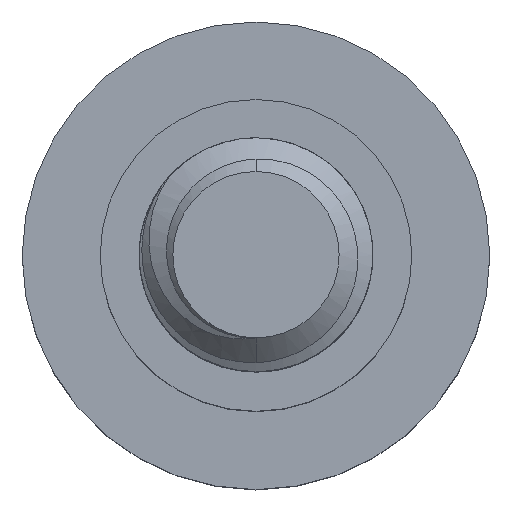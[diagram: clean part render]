
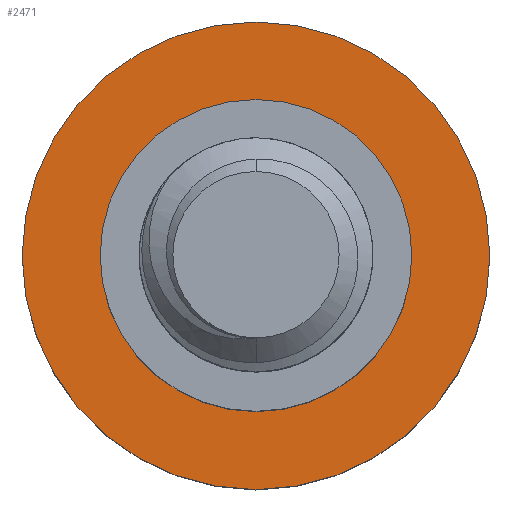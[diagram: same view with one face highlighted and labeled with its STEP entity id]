
A CAD part, top view. The second image highlights one B-rep face of the part: STEP entity #2471.
In plain terms, the highlighted planar face has unit normal (0, 0, 1).
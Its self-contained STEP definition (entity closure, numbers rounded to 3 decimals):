
#40 = FACE_OUTER_BOUND ( 'NONE', #214, .T. ) ;
#57 = CIRCLE ( 'NONE', #2393, 6. ) ;
#214 = EDGE_LOOP ( 'NONE', ( #3613, #1439 ) ) ;
#231 = CARTESIAN_POINT ( 'NONE',  ( -6., 0., -6. ) ) ;
#324 = CARTESIAN_POINT ( 'NONE',  ( 0., 0., -6. ) ) ;
#363 = DIRECTION ( 'NONE',  ( 0., 0., -1. ) ) ;
#591 = DIRECTION ( 'NONE',  ( -1., 0., 0. ) ) ;
#595 = EDGE_LOOP ( 'NONE', ( #811, #3376 ) ) ;
#648 = CARTESIAN_POINT ( 'NONE',  ( 6., 0., -6. ) ) ;
#660 = DIRECTION ( 'NONE',  ( -1., 0., 0. ) ) ;
#811 = ORIENTED_EDGE ( 'NONE', *, *, #1489, .T. ) ;
#949 = VERTEX_POINT ( 'NONE', #3236 ) ;
#1026 = FACE_BOUND ( 'NONE', #595, .T. ) ;
#1074 = VERTEX_POINT ( 'NONE', #648 ) ;
#1439 = ORIENTED_EDGE ( 'NONE', *, *, #2447, .F. ) ;
#1489 = EDGE_CURVE ( 'NONE', #949, #2481, #4044, .T. ) ;
#1694 = CARTESIAN_POINT ( 'NONE',  ( 0., 0., -6. ) ) ;
#1709 = CIRCLE ( 'NONE', #3501, 6. ) ;
#1904 = AXIS2_PLACEMENT_3D ( 'NONE', #4038, #3032, #2029 ) ;
#2015 = CARTESIAN_POINT ( 'NONE',  ( 4., 0., -6. ) ) ;
#2029 = DIRECTION ( 'NONE',  ( -1., 0., 0. ) ) ;
#2345 = CARTESIAN_POINT ( 'NONE',  ( 0., 0., -6. ) ) ;
#2393 = AXIS2_PLACEMENT_3D ( 'NONE', #324, #2981, #2961 ) ;
#2447 = EDGE_CURVE ( 'NONE', #3720, #1074, #57, .T. ) ;
#2471 = ADVANCED_FACE ( 'NONE', ( #1026, #40 ), #2635, .F. ) ;
#2481 = VERTEX_POINT ( 'NONE', #2015 ) ;
#2540 = CARTESIAN_POINT ( 'NONE',  ( 0., 0., -6. ) ) ;
#2562 = DIRECTION ( 'NONE',  ( 0., 0., -1. ) ) ;
#2605 = AXIS2_PLACEMENT_3D ( 'NONE', #1694, #363, #3970 ) ;
#2635 = PLANE ( 'NONE',  #3573 ) ;
#2960 = EDGE_CURVE ( 'NONE', #2481, #949, #3987, .T. ) ;
#2961 = DIRECTION ( 'NONE',  ( -1., 0., 0. ) ) ;
#2981 = DIRECTION ( 'NONE',  ( 0., 0., -1. ) ) ;
#3032 = DIRECTION ( 'NONE',  ( 0., 0., -1. ) ) ;
#3236 = CARTESIAN_POINT ( 'NONE',  ( -4., 0., -6. ) ) ;
#3376 = ORIENTED_EDGE ( 'NONE', *, *, #2960, .T. ) ;
#3501 = AXIS2_PLACEMENT_3D ( 'NONE', #2540, #2562, #591 ) ;
#3573 = AXIS2_PLACEMENT_3D ( 'NONE', #2345, #3949, #660 ) ;
#3613 = ORIENTED_EDGE ( 'NONE', *, *, #3820, .F. ) ;
#3720 = VERTEX_POINT ( 'NONE', #231 ) ;
#3820 = EDGE_CURVE ( 'NONE', #1074, #3720, #1709, .T. ) ;
#3949 = DIRECTION ( 'NONE',  ( 0., 0., -1. ) ) ;
#3970 = DIRECTION ( 'NONE',  ( -1., 0., 0. ) ) ;
#3987 = CIRCLE ( 'NONE', #1904, 4. ) ;
#4038 = CARTESIAN_POINT ( 'NONE',  ( 0., 0., -6. ) ) ;
#4044 = CIRCLE ( 'NONE', #2605, 4. ) ;
